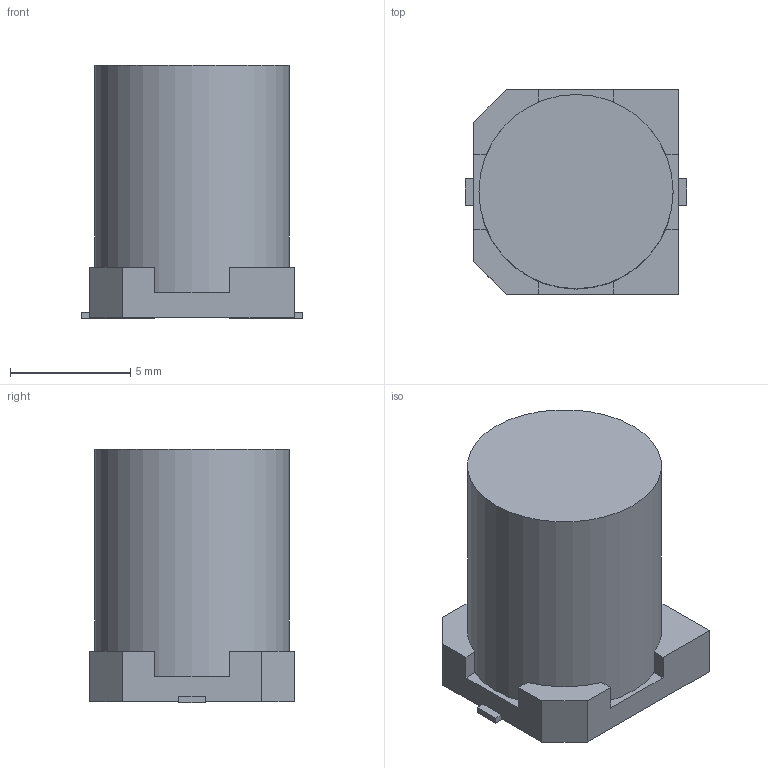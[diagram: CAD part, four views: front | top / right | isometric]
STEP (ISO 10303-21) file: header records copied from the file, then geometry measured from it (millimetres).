
FILE_DESCRIPTION(('STEP AP214'),'1');
FILE_NAME('CAP_WCAP-ASLL_08p0X10p5_WRE','2024-04-30T04:08:37',(''),(''),'','','');
FILE_SCHEMA(('AUTOMOTIVE_DESIGN'));
Length unit declared in the file: millimetre
Products named in the file (1): product
Bounding box: 9.19 x 8.51 x 10.54 mm (x, y, z)
Volume: 574.6 mm3; surface area: 571.4 mm2
Topology: 4 solids, 4 shells, 47 faces, 109 edges, 70 vertices
Faces by surface type: plane 42, cylinder 5
Full cylindrical faces by diameter (mm): 8.078 x1
Entity records: 1413 total; most frequent: DIRECTION 216, ORIENTED_EDGE 216, CARTESIAN_POINT 123, EDGE_CURVE 108, LINE 98, VECTOR 98, VERTEX_POINT 70, AXIS2_PLACEMENT_3D 59
